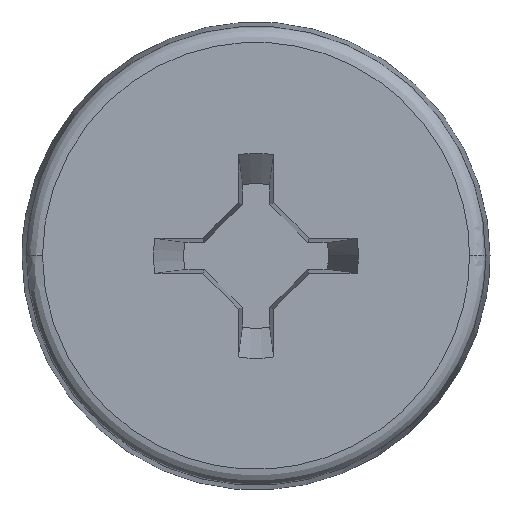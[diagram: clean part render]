
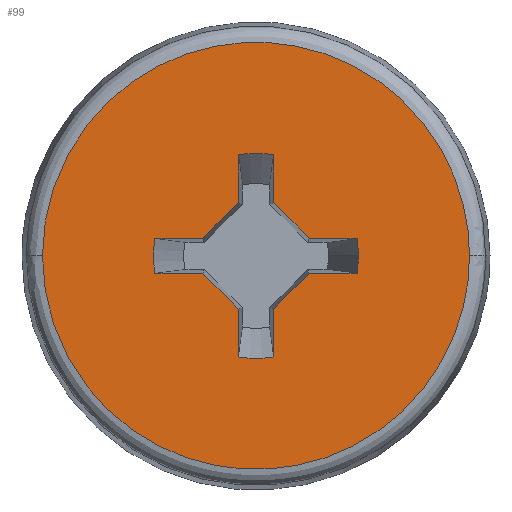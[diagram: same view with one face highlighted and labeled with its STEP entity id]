
A CAD part, top view. The second image highlights one B-rep face of the part: STEP entity #99.
In plain terms, the highlighted planar face has unit normal (0, 0, 1).
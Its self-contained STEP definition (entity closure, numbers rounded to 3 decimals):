
#25=FACE_BOUND('',#285,.T.);
#99=ADVANCED_FACE('',(#191,#25),#1523,.T.);
#191=FACE_OUTER_BOUND('',#284,.T.);
#284=EDGE_LOOP('',(#722,#723));
#285=EDGE_LOOP('',(#724,#725,#726,#727,#728,#729,#730,#731,#732,#733,#734,
#735,#736,#737,#738,#739,#740));
#722=ORIENTED_EDGE('',*,*,#1027,.F.);
#723=ORIENTED_EDGE('',*,*,#1086,.T.);
#724=ORIENTED_EDGE('',*,*,#1032,.T.);
#725=ORIENTED_EDGE('',*,*,#1058,.T.);
#726=ORIENTED_EDGE('',*,*,#1039,.T.);
#727=ORIENTED_EDGE('',*,*,#1067,.T.);
#728=ORIENTED_EDGE('',*,*,#1040,.T.);
#729=ORIENTED_EDGE('',*,*,#1071,.T.);
#730=ORIENTED_EDGE('',*,*,#1041,.T.);
#731=ORIENTED_EDGE('',*,*,#1075,.T.);
#732=ORIENTED_EDGE('',*,*,#1042,.T.);
#733=ORIENTED_EDGE('',*,*,#1079,.T.);
#734=ORIENTED_EDGE('',*,*,#1043,.T.);
#735=ORIENTED_EDGE('',*,*,#1083,.T.);
#736=ORIENTED_EDGE('',*,*,#1044,.T.);
#737=ORIENTED_EDGE('',*,*,#1047,.T.);
#738=ORIENTED_EDGE('',*,*,#1045,.T.);
#739=ORIENTED_EDGE('',*,*,#1053,.T.);
#740=ORIENTED_EDGE('',*,*,#1046,.T.);
#1027=EDGE_CURVE('',#1482,#1483,#1217,.T.);
#1032=EDGE_CURVE('',#1488,#1487,#1221,.T.);
#1039=EDGE_CURVE('',#1491,#1492,#1309,.T.);
#1040=EDGE_CURVE('',#1493,#1494,#1310,.T.);
#1041=EDGE_CURVE('',#1495,#1496,#1311,.T.);
#1042=EDGE_CURVE('',#1497,#1498,#1312,.T.);
#1043=EDGE_CURVE('',#1499,#1500,#1313,.T.);
#1044=EDGE_CURVE('',#1501,#1502,#1314,.T.);
#1045=EDGE_CURVE('',#1503,#1504,#1315,.T.);
#1046=EDGE_CURVE('',#1505,#1488,#1316,.T.);
#1047=EDGE_CURVE('',#1502,#1503,#1225,.T.);
#1053=EDGE_CURVE('',#1504,#1505,#1321,.T.);
#1058=EDGE_CURVE('',#1487,#1491,#1228,.T.);
#1067=EDGE_CURVE('',#1492,#1493,#1333,.T.);
#1071=EDGE_CURVE('',#1494,#1495,#1229,.T.);
#1075=EDGE_CURVE('',#1496,#1497,#1339,.T.);
#1079=EDGE_CURVE('',#1498,#1499,#1231,.T.);
#1083=EDGE_CURVE('',#1500,#1501,#1345,.T.);
#1086=EDGE_CURVE('',#1482,#1483,#1233,.T.);
#1217=(
BOUNDED_CURVE()
B_SPLINE_CURVE(2,(#5500,#5501,#5502,#5503,#5504),.UNSPECIFIED.,.F.,.F.)
B_SPLINE_CURVE_WITH_KNOTS((3,2,3),(0.,0.314,0.627),
 .UNSPECIFIED.)
CURVE()
GEOMETRIC_REPRESENTATION_ITEM()
RATIONAL_B_SPLINE_CURVE((1.,0.707,1.,0.707,1.))
REPRESENTATION_ITEM('')
);
#1221=(
BOUNDED_CURVE()
B_SPLINE_CURVE(2,(#5518,#5519,#5520),.UNSPECIFIED.,.F.,.F.)
B_SPLINE_CURVE_WITH_KNOTS((3,3),(-0.017,0.),.UNSPECIFIED.)
CURVE()
GEOMETRIC_REPRESENTATION_ITEM()
RATIONAL_B_SPLINE_CURVE((1.,0.996,1.))
REPRESENTATION_ITEM('')
);
#1225=(
BOUNDED_CURVE()
B_SPLINE_CURVE(2,(#5560,#5561,#5562),.UNSPECIFIED.,.F.,.F.)
B_SPLINE_CURVE_WITH_KNOTS((3,3),(-0.033,0.),.UNSPECIFIED.)
CURVE()
GEOMETRIC_REPRESENTATION_ITEM()
RATIONAL_B_SPLINE_CURVE((1.,0.985,1.))
REPRESENTATION_ITEM('')
);
#1228=(
BOUNDED_CURVE()
B_SPLINE_CURVE(2,(#5589,#5590,#5591),.UNSPECIFIED.,.F.,.F.)
B_SPLINE_CURVE_WITH_KNOTS((3,3),(-0.017,0.),.UNSPECIFIED.)
CURVE()
GEOMETRIC_REPRESENTATION_ITEM()
RATIONAL_B_SPLINE_CURVE((1.,0.996,1.))
REPRESENTATION_ITEM('')
);
#1229=(
BOUNDED_CURVE()
B_SPLINE_CURVE(2,(#5620,#5621,#5622),.UNSPECIFIED.,.F.,.F.)
B_SPLINE_CURVE_WITH_KNOTS((3,3),(-0.033,0.),.UNSPECIFIED.)
CURVE()
GEOMETRIC_REPRESENTATION_ITEM()
RATIONAL_B_SPLINE_CURVE((1.,0.985,1.))
REPRESENTATION_ITEM('')
);
#1231=(
BOUNDED_CURVE()
B_SPLINE_CURVE(2,(#5642,#5643,#5644),.UNSPECIFIED.,.F.,.F.)
B_SPLINE_CURVE_WITH_KNOTS((3,3),(-0.033,0.),.UNSPECIFIED.)
CURVE()
GEOMETRIC_REPRESENTATION_ITEM()
RATIONAL_B_SPLINE_CURVE((1.,0.985,1.))
REPRESENTATION_ITEM('')
);
#1233=(
BOUNDED_CURVE()
B_SPLINE_CURVE(2,(#5660,#5661,#5662,#5663,#5664),.UNSPECIFIED.,.F.,.F.)
B_SPLINE_CURVE_WITH_KNOTS((3,2,3),(0.,0.314,0.627),
 .UNSPECIFIED.)
CURVE()
GEOMETRIC_REPRESENTATION_ITEM()
RATIONAL_B_SPLINE_CURVE((1.,0.707,1.,0.707,1.))
REPRESENTATION_ITEM('')
);
#1309=B_SPLINE_CURVE_WITH_KNOTS('',1,(#5544,#5545),.UNSPECIFIED.,.F.,.F.,
(2,2),(0.,0.045),.UNSPECIFIED.);
#1310=B_SPLINE_CURVE_WITH_KNOTS('',1,(#5546,#5547),.UNSPECIFIED.,.F.,.F.,
(2,2),(0.,0.045),.UNSPECIFIED.);
#1311=B_SPLINE_CURVE_WITH_KNOTS('',1,(#5548,#5549),.UNSPECIFIED.,.F.,.F.,
(2,2),(0.,0.045),.UNSPECIFIED.);
#1312=B_SPLINE_CURVE_WITH_KNOTS('',1,(#5550,#5551),.UNSPECIFIED.,.F.,.F.,
(2,2),(0.,0.045),.UNSPECIFIED.);
#1313=B_SPLINE_CURVE_WITH_KNOTS('',1,(#5552,#5553),.UNSPECIFIED.,.F.,.F.,
(2,2),(0.,0.045),.UNSPECIFIED.);
#1314=B_SPLINE_CURVE_WITH_KNOTS('',1,(#5554,#5555),.UNSPECIFIED.,.F.,.F.,
(2,2),(0.,0.045),.UNSPECIFIED.);
#1315=B_SPLINE_CURVE_WITH_KNOTS('',1,(#5556,#5557),.UNSPECIFIED.,.F.,.F.,
(2,2),(0.,0.045),.UNSPECIFIED.);
#1316=B_SPLINE_CURVE_WITH_KNOTS('',1,(#5558,#5559),.UNSPECIFIED.,.F.,.F.,
(2,2),(0.,0.045),.UNSPECIFIED.);
#1321=B_SPLINE_CURVE_WITH_KNOTS('',1,(#5578,#5579),.UNSPECIFIED.,.F.,.F.,
(2,2),(-0.047,0.),.UNSPECIFIED.);
#1333=B_SPLINE_CURVE_WITH_KNOTS('',1,(#5610,#5611),.UNSPECIFIED.,.F.,.F.,
(2,2),(-0.047,0.),.UNSPECIFIED.);
#1339=B_SPLINE_CURVE_WITH_KNOTS('',1,(#5632,#5633),.UNSPECIFIED.,.F.,.F.,
(2,2),(-0.047,0.),.UNSPECIFIED.);
#1345=B_SPLINE_CURVE_WITH_KNOTS('',1,(#5654,#5655),.UNSPECIFIED.,.F.,.F.,
(2,2),(-0.047,0.),.UNSPECIFIED.);
#1482=VERTEX_POINT('',#4147);
#1483=VERTEX_POINT('',#4148);
#1487=VERTEX_POINT('',#4152);
#1488=VERTEX_POINT('',#4153);
#1491=VERTEX_POINT('',#4156);
#1492=VERTEX_POINT('',#4157);
#1493=VERTEX_POINT('',#4158);
#1494=VERTEX_POINT('',#4159);
#1495=VERTEX_POINT('',#4160);
#1496=VERTEX_POINT('',#4161);
#1497=VERTEX_POINT('',#4162);
#1498=VERTEX_POINT('',#4163);
#1499=VERTEX_POINT('',#4164);
#1500=VERTEX_POINT('',#4165);
#1501=VERTEX_POINT('',#4166);
#1502=VERTEX_POINT('',#4167);
#1503=VERTEX_POINT('',#4168);
#1504=VERTEX_POINT('',#4169);
#1505=VERTEX_POINT('',#4170);
#1523=PLANE('',#1635);
#1635=AXIS2_PLACEMENT_3D('',#3846,#1654,$);
#1654=DIRECTION('',(0.,0.,1.));
#3846=CARTESIAN_POINT('',(9.204,-12.796,1.429));
#4147=CARTESIAN_POINT('',(18.958,0.,1.429));
#4148=CARTESIAN_POINT('',(25.042,0.,1.429));
#4152=CARTESIAN_POINT('',(23.462,0.,1.429));
#4153=CARTESIAN_POINT('',(23.441,0.251,1.429));
#4156=CARTESIAN_POINT('',(23.441,-0.251,1.429));
#4157=CARTESIAN_POINT('',(22.759,-0.251,1.429));
#4158=CARTESIAN_POINT('',(22.251,-0.759,1.429));
#4159=CARTESIAN_POINT('',(22.251,-1.441,1.429));
#4160=CARTESIAN_POINT('',(21.749,-1.441,1.429));
#4161=CARTESIAN_POINT('',(21.749,-0.759,1.429));
#4162=CARTESIAN_POINT('',(21.241,-0.251,1.429));
#4163=CARTESIAN_POINT('',(20.559,-0.251,1.429));
#4164=CARTESIAN_POINT('',(20.559,0.251,1.429));
#4165=CARTESIAN_POINT('',(21.241,0.251,1.429));
#4166=CARTESIAN_POINT('',(21.749,0.759,1.429));
#4167=CARTESIAN_POINT('',(21.749,1.441,1.429));
#4168=CARTESIAN_POINT('',(22.251,1.441,1.429));
#4169=CARTESIAN_POINT('',(22.251,0.759,1.429));
#4170=CARTESIAN_POINT('',(22.759,0.251,1.429));
#5500=CARTESIAN_POINT('',(18.958,0.,1.429));
#5501=CARTESIAN_POINT('',(18.958,3.042,1.429));
#5502=CARTESIAN_POINT('',(22.,3.042,1.429));
#5503=CARTESIAN_POINT('',(25.042,3.042,1.429));
#5504=CARTESIAN_POINT('',(25.042,0.,1.429));
#5518=CARTESIAN_POINT('',(23.441,0.251,1.429));
#5519=CARTESIAN_POINT('',(23.462,0.126,1.429));
#5520=CARTESIAN_POINT('',(23.462,0.,1.429));
#5544=CARTESIAN_POINT('',(23.441,-0.251,1.429));
#5545=CARTESIAN_POINT('',(22.759,-0.251,1.429));
#5546=CARTESIAN_POINT('',(22.251,-0.759,1.429));
#5547=CARTESIAN_POINT('',(22.251,-1.441,1.429));
#5548=CARTESIAN_POINT('',(21.749,-1.441,1.429));
#5549=CARTESIAN_POINT('',(21.749,-0.759,1.429));
#5550=CARTESIAN_POINT('',(21.241,-0.251,1.429));
#5551=CARTESIAN_POINT('',(20.559,-0.251,1.429));
#5552=CARTESIAN_POINT('',(20.559,0.251,1.429));
#5553=CARTESIAN_POINT('',(21.241,0.251,1.429));
#5554=CARTESIAN_POINT('',(21.749,0.759,1.429));
#5555=CARTESIAN_POINT('',(21.749,1.441,1.429));
#5556=CARTESIAN_POINT('',(22.251,1.441,1.429));
#5557=CARTESIAN_POINT('',(22.251,0.759,1.429));
#5558=CARTESIAN_POINT('',(22.759,0.251,1.429));
#5559=CARTESIAN_POINT('',(23.441,0.251,1.429));
#5560=CARTESIAN_POINT('',(21.749,1.441,1.429));
#5561=CARTESIAN_POINT('',(22.,1.484,1.429));
#5562=CARTESIAN_POINT('',(22.251,1.441,1.429));
#5578=CARTESIAN_POINT('',(22.251,0.759,1.429));
#5579=CARTESIAN_POINT('',(22.759,0.251,1.429));
#5589=CARTESIAN_POINT('',(23.462,0.,1.429));
#5590=CARTESIAN_POINT('',(23.462,-0.126,1.429));
#5591=CARTESIAN_POINT('',(23.441,-0.251,1.429));
#5610=CARTESIAN_POINT('',(22.759,-0.251,1.429));
#5611=CARTESIAN_POINT('',(22.251,-0.759,1.429));
#5620=CARTESIAN_POINT('',(22.251,-1.441,1.429));
#5621=CARTESIAN_POINT('',(22.,-1.484,1.429));
#5622=CARTESIAN_POINT('',(21.749,-1.441,1.429));
#5632=CARTESIAN_POINT('',(21.749,-0.759,1.429));
#5633=CARTESIAN_POINT('',(21.241,-0.251,1.429));
#5642=CARTESIAN_POINT('',(20.559,-0.251,1.429));
#5643=CARTESIAN_POINT('',(20.516,0.,1.429));
#5644=CARTESIAN_POINT('',(20.559,0.251,1.429));
#5654=CARTESIAN_POINT('',(21.241,0.251,1.429));
#5655=CARTESIAN_POINT('',(21.749,0.759,1.429));
#5660=CARTESIAN_POINT('',(18.958,0.,1.429));
#5661=CARTESIAN_POINT('',(18.958,-3.042,1.429));
#5662=CARTESIAN_POINT('',(22.,-3.042,1.429));
#5663=CARTESIAN_POINT('',(25.042,-3.042,1.429));
#5664=CARTESIAN_POINT('',(25.042,0.,1.429));
